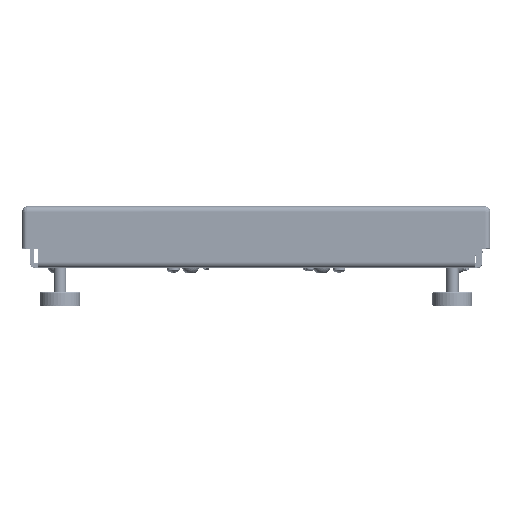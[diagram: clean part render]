
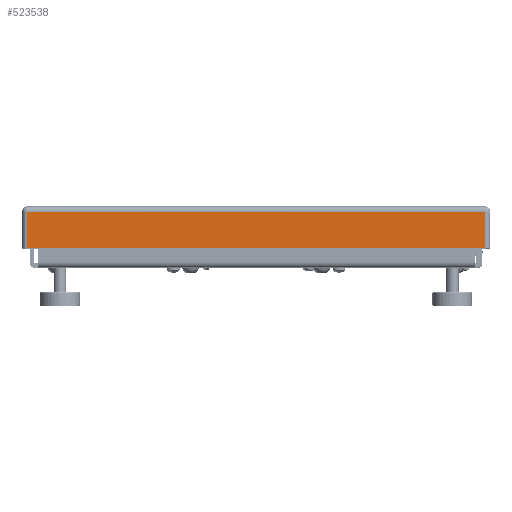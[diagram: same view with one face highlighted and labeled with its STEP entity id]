
A CAD part, top view. The second image highlights one B-rep face of the part: STEP entity #523538.
In plain terms, the highlighted planar face has unit normal (0, 0, 1) as drawn and (0, 0, -1) by its records, which use the part's own axes.
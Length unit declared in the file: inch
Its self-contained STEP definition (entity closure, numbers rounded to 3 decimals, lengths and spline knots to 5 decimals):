
#40220 = AXIS2_PLACEMENT_3D ( 'NONE', #428336, #651220, #81617 ) ;
#61698 = LINE ( 'NONE', #725133, #450889 ) ;
#74986 = EDGE_CURVE ( 'NONE', #374535, #268799, #463637, .T. ) ;
#81617 = DIRECTION ( 'NONE',  ( 0., -1., 0. ) ) ;
#99755 = DIRECTION ( 'NONE',  ( 0., 1., 0. ) ) ;
#104054 = VERTEX_POINT ( 'NONE', #642398 ) ;
#134726 = PLANE ( 'NONE',  #40220 ) ;
#148036 = CARTESIAN_POINT ( 'NONE',  ( 5.86998, 0.032, -5.86998 ) ) ;
#148776 = EDGE_CURVE ( 'NONE', #104054, #683609, #437601, .T. ) ;
#169151 = CARTESIAN_POINT ( 'NONE',  ( -5.73814, 0.032, -5.86998 ) ) ;
#190612 = ORIENTED_EDGE ( 'NONE', *, *, #722539, .F. ) ;
#202643 = FACE_OUTER_BOUND ( 'NONE', #618561, .T. ) ;
#268799 = VERTEX_POINT ( 'NONE', #338477 ) ;
#322709 = DIRECTION ( 'NONE',  ( 1., 0., 0. ) ) ;
#338477 = CARTESIAN_POINT ( 'NONE',  ( 5.73814, 0.032, -5.86998 ) ) ;
#374535 = VERTEX_POINT ( 'NONE', #169151 ) ;
#376478 = DIRECTION ( 'NONE',  ( 1., 0., 0. ) ) ;
#422661 = VECTOR ( 'NONE', #624424, 39.37008 ) ;
#428336 = CARTESIAN_POINT ( 'NONE',  ( 0., 0., -5.86998 ) ) ;
#432264 = CARTESIAN_POINT ( 'NONE',  ( 0., 0.946, -5.86998 ) ) ;
#437601 = LINE ( 'NONE', #432264, #700650 ) ;
#450889 = VECTOR ( 'NONE', #99755, 39.37008 ) ;
#463637 = LINE ( 'NONE', #148036, #707758 ) ;
#523538 = ADVANCED_FACE ( 'NONE', ( #202643 ), #134726, .F. ) ;
#576644 = CARTESIAN_POINT ( 'NONE',  ( 5.73814, 0.946, -5.86998 ) ) ;
#611876 = EDGE_CURVE ( 'NONE', #374535, #104054, #748858, .T. ) ;
#618561 = EDGE_LOOP ( 'NONE', ( #655767, #708219, #619361, #190612 ) ) ;
#619361 = ORIENTED_EDGE ( 'NONE', *, *, #148776, .T. ) ;
#619453 = CARTESIAN_POINT ( 'NONE',  ( -5.73814, 0., -5.86998 ) ) ;
#624424 = DIRECTION ( 'NONE',  ( 0., 1., 0. ) ) ;
#642398 = CARTESIAN_POINT ( 'NONE',  ( -5.73814, 0.946, -5.86998 ) ) ;
#651220 = DIRECTION ( 'NONE',  ( 0., 0., 1. ) ) ;
#655767 = ORIENTED_EDGE ( 'NONE', *, *, #74986, .F. ) ;
#683609 = VERTEX_POINT ( 'NONE', #576644 ) ;
#700650 = VECTOR ( 'NONE', #376478, 39.37008 ) ;
#707758 = VECTOR ( 'NONE', #322709, 39.37008 ) ;
#708219 = ORIENTED_EDGE ( 'NONE', *, *, #611876, .T. ) ;
#722539 = EDGE_CURVE ( 'NONE', #268799, #683609, #61698, .T. ) ;
#725133 = CARTESIAN_POINT ( 'NONE',  ( 5.73814, 0., -5.86998 ) ) ;
#748858 = LINE ( 'NONE', #619453, #422661 ) ;
